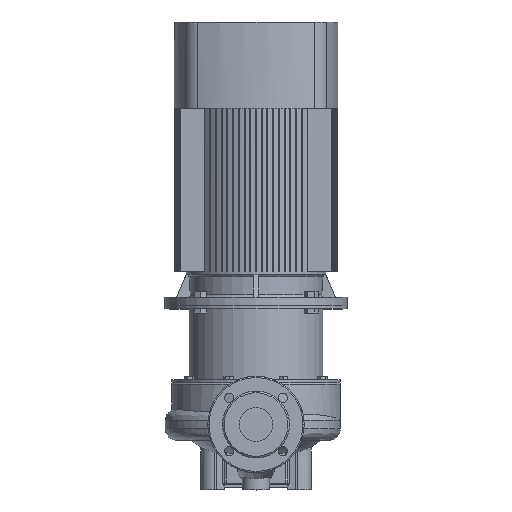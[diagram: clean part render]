
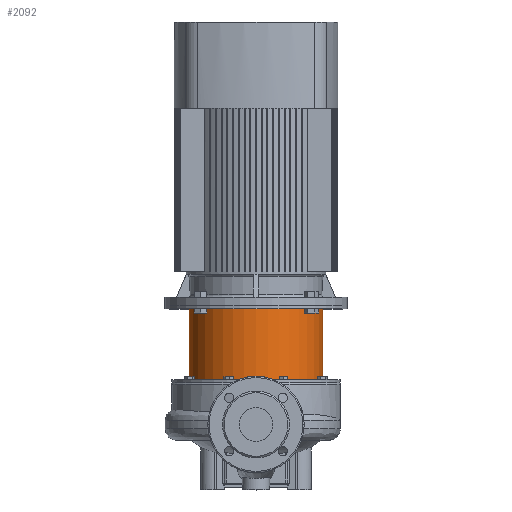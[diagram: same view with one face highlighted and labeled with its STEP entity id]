
A CAD part, top view. The second image highlights one B-rep face of the part: STEP entity #2092.
In plain terms, the highlighted cylindrical face has radius 128 mm (diameter 256 mm), a partial arc.
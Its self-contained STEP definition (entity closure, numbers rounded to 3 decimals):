
#912 = VECTOR ( 'NONE', #6147, 1000. ) ;
#1273 = DIRECTION ( 'NONE',  ( 1., 0., 0. ) ) ;
#1574 = VECTOR ( 'NONE', #20666, 1000. ) ;
#1776 = DIRECTION ( 'NONE',  ( 1., 0., 0. ) ) ;
#1859 = CARTESIAN_POINT ( 'NONE',  ( 0., 0., -6. ) ) ;
#2092 = ADVANCED_FACE ( 'NONE', ( #4300 ), #18506, .T. ) ;
#3933 = CARTESIAN_POINT ( 'NONE',  ( 0., 0., -142. ) ) ;
#4150 = CARTESIAN_POINT ( 'NONE',  ( 0., 0., 14.36 ) ) ;
#4300 = FACE_OUTER_BOUND ( 'NONE', #17688, .T. ) ;
#5366 = EDGE_CURVE ( 'NONE', #27593, #29030, #15862, .T. ) ;
#6147 = DIRECTION ( 'NONE',  ( 0., 0., 1. ) ) ;
#6517 = CARTESIAN_POINT ( 'NONE',  ( -128., 0., -142. ) ) ;
#7930 = EDGE_CURVE ( 'NONE', #29030, #8429, #21766, .T. ) ;
#8122 = DIRECTION ( 'NONE',  ( 0., 0., 1. ) ) ;
#8429 = VERTEX_POINT ( 'NONE', #13851 ) ;
#9394 = LINE ( 'NONE', #18810, #1574 ) ;
#11251 = DIRECTION ( 'NONE',  ( 0., 0., 1. ) ) ;
#13337 = VERTEX_POINT ( 'NONE', #18383 ) ;
#13851 = CARTESIAN_POINT ( 'NONE',  ( 128., 0., -6. ) ) ;
#14901 = EDGE_CURVE ( 'NONE', #13337, #8429, #9394, .T. ) ;
#15862 = LINE ( 'NONE', #17879, #912 ) ;
#17509 = ORIENTED_EDGE ( 'NONE', *, *, #20419, .T. ) ;
#17688 = EDGE_LOOP ( 'NONE', ( #25875, #17509, #24805, #21000 ) ) ;
#17879 = CARTESIAN_POINT ( 'NONE',  ( -128., 0., 14.36 ) ) ;
#18383 = CARTESIAN_POINT ( 'NONE',  ( 128., 0., -142. ) ) ;
#18506 = CYLINDRICAL_SURFACE ( 'NONE', #19200, 128. ) ;
#18810 = CARTESIAN_POINT ( 'NONE',  ( 128., 0., 14.36 ) ) ;
#19200 = AXIS2_PLACEMENT_3D ( 'NONE', #4150, #11251, #25454 ) ;
#20419 = EDGE_CURVE ( 'NONE', #27593, #13337, #29836, .T. ) ;
#20666 = DIRECTION ( 'NONE',  ( 0., 0., 1. ) ) ;
#21000 = ORIENTED_EDGE ( 'NONE', *, *, #7930, .F. ) ;
#21766 = CIRCLE ( 'NONE', #23745, 128. ) ;
#23016 = DIRECTION ( 'NONE',  ( 0., 0., 1. ) ) ;
#23745 = AXIS2_PLACEMENT_3D ( 'NONE', #1859, #23016, #1273 ) ;
#24805 = ORIENTED_EDGE ( 'NONE', *, *, #14901, .T. ) ;
#24899 = AXIS2_PLACEMENT_3D ( 'NONE', #3933, #8122, #1776 ) ;
#25454 = DIRECTION ( 'NONE',  ( 1., 0., 0. ) ) ;
#25875 = ORIENTED_EDGE ( 'NONE', *, *, #5366, .F. ) ;
#27352 = CARTESIAN_POINT ( 'NONE',  ( -128., 0., -6. ) ) ;
#27593 = VERTEX_POINT ( 'NONE', #6517 ) ;
#29030 = VERTEX_POINT ( 'NONE', #27352 ) ;
#29836 = CIRCLE ( 'NONE', #24899, 128. ) ;
